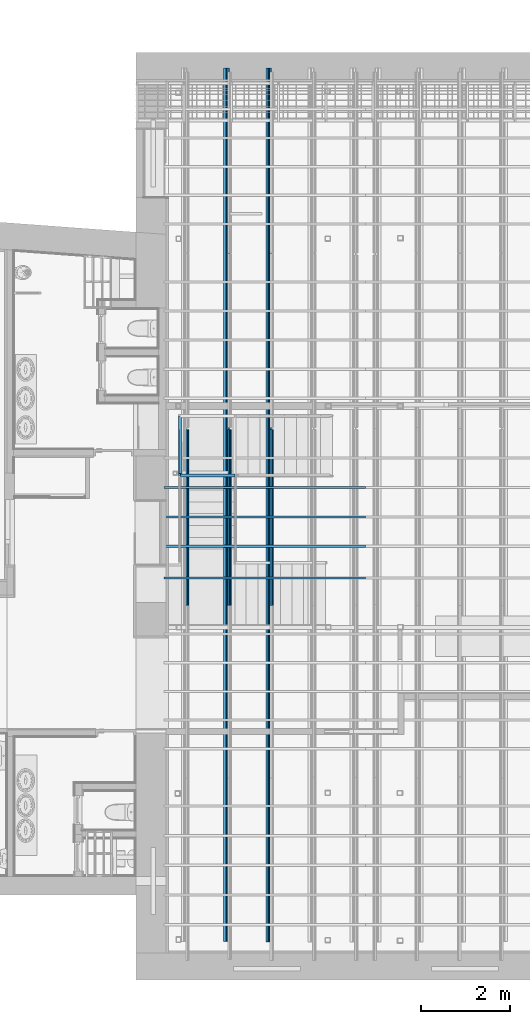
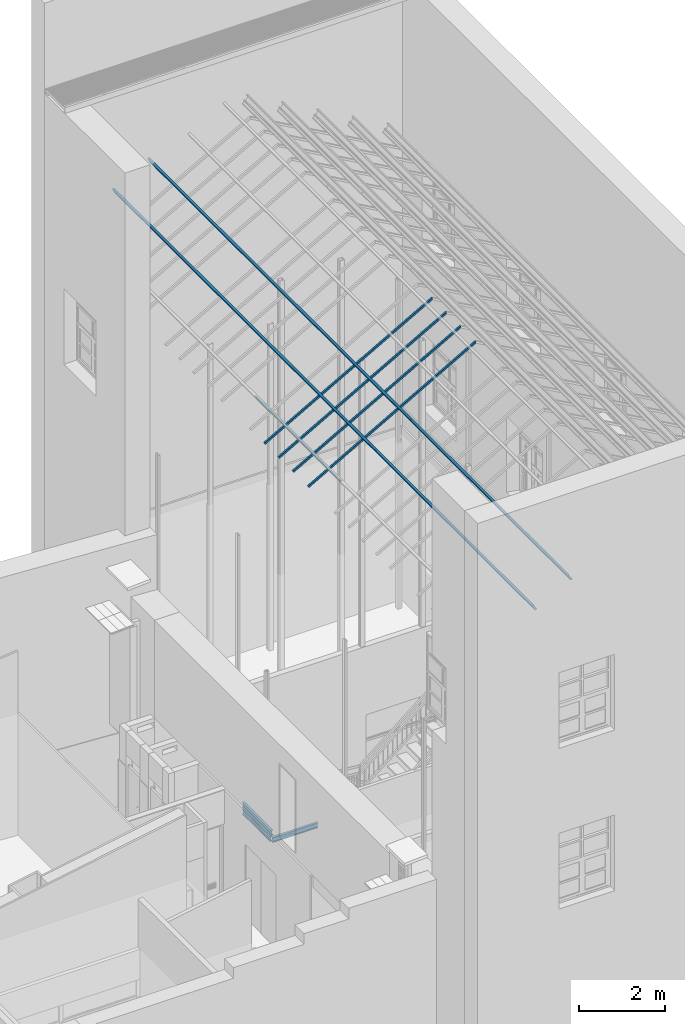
# One storey, part 18 of 75: 12 beams.
"""IFC2X3 building model written with IfcOpenShell, lengths in metres."""

from ifc_helpers import new_model, entity, si_unit, converted_unit, derived_unit, direction, frame, frame_2d, origin, origin_2d, place, context, subcontext, project, spatial, polyline, circle_curve, parameter, trimmed, segment, composite_curve, rectangle, i_section, outline, extrude, clip, halfspace, material, type_object, element, save


model = new_model("IFC2X3")

# Units and contexts
model_context = context("Model", 3, precision=1e-05, world=origin(), true_north=direction((6.12303176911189e-17, 1.0)))
body_context = subcontext(model_context, "Body", "Model", "MODEL_VIEW")
ifc_project = project(units=[si_unit("LENGTHUNIT", "METRE"), si_unit("AREAUNIT", "SQUARE_METRE"), si_unit("VOLUMEUNIT", "CUBIC_METRE"), converted_unit("PLANEANGLEUNIT", "DEGREE", entity("IfcRatioMeasure", 0.0174532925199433), si_unit("PLANEANGLEUNIT", "RADIAN"), dimensions=[0, 0, 0, 0, 0, 0, 0]), si_unit("MASSUNIT", "GRAM", prefix="KILO"), derived_unit("MASSDENSITYUNIT", [(si_unit("MASSUNIT", "GRAM", prefix="KILO"), 1), (si_unit("LENGTHUNIT", "METRE"), -3)]), derived_unit("MOMENTOFINERTIAUNIT", [(si_unit("LENGTHUNIT", "METRE"), 4)]), si_unit("TIMEUNIT", "SECOND"), si_unit("FREQUENCYUNIT", "HERTZ"), si_unit("THERMODYNAMICTEMPERATUREUNIT", "DEGREE_CELSIUS"), derived_unit("THERMALTRANSMITTANCEUNIT", [(si_unit("MASSUNIT", "GRAM", prefix="KILO"), 1), (si_unit("THERMODYNAMICTEMPERATUREUNIT", "KELVIN"), -1), (si_unit("TIMEUNIT", "SECOND"), -3)]), derived_unit("VOLUMETRICFLOWRATEUNIT", [(si_unit("LENGTHUNIT", "METRE"), 3), (si_unit("TIMEUNIT", "SECOND"), -1)]), si_unit("ELECTRICCURRENTUNIT", "AMPERE"), si_unit("ELECTRICVOLTAGEUNIT", "VOLT"), si_unit("POWERUNIT", "WATT"), si_unit("FORCEUNIT", "NEWTON", prefix="KILO"), si_unit("ILLUMINANCEUNIT", "LUX"), si_unit("LUMINOUSFLUXUNIT", "LUMEN"), si_unit("LUMINOUSINTENSITYUNIT", "CANDELA"), derived_unit("USERDEFINED", [(si_unit("MASSUNIT", "GRAM", prefix="KILO"), -1), (si_unit("LENGTHUNIT", "METRE"), -2), (si_unit("TIMEUNIT", "SECOND"), 3), (si_unit("LUMINOUSFLUXUNIT", "LUMEN"), 1)]), derived_unit("LINEARVELOCITYUNIT", [(si_unit("LENGTHUNIT", "METRE"), 1), (si_unit("TIMEUNIT", "SECOND"), -1)]), si_unit("PRESSUREUNIT", "PASCAL"), derived_unit("USERDEFINED", [(si_unit("LENGTHUNIT", "METRE"), -2), (si_unit("MASSUNIT", "GRAM", prefix="KILO"), 1), (si_unit("TIMEUNIT", "SECOND"), -2)]), derived_unit("LINEARFORCEUNIT", [(si_unit("MASSUNIT", "GRAM", prefix="KILO"), 1), (si_unit("LENGTHUNIT", "METRE"), 1), (si_unit("TIMEUNIT", "SECOND"), -2), (si_unit("LENGTHUNIT", "METRE"), -1)]), derived_unit("PLANARFORCEUNIT", [(si_unit("MASSUNIT", "GRAM", prefix="KILO"), 1), (si_unit("LENGTHUNIT", "METRE"), 1), (si_unit("TIMEUNIT", "SECOND"), -2), (si_unit("LENGTHUNIT", "METRE"), -2)])], contexts=[model_context])

# Site, building, storey
site_placement = place(None, origin())
site = spatial("IfcSite", under=ifc_project, at=site_placement, Name="Superficie", CompositionType="ELEMENT")
building_placement = place(site_placement, origin())
building = spatial("IfcBuilding", under=site, at=building_placement, Name="Telegestiones", CompositionType="ELEMENT")
storey_placement = place(building_placement, origin())
storey = spatial("IfcBuildingStorey", under=building, at=storey_placement, Name="Nivel 0_NPT", CompositionType="ELEMENT", Elevation=0.0)

# Beams
ifc_material_1 = material(Name="Metal - Acero - 345 MPa")
beam_type_1 = type_object("IfcBeamType", Name="IPN - Secciones en I con alas cónicas:IPN 140", PredefinedType="NOTDEFINED")
beam_1_placement = place(storey_placement, frame((6.35214331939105, 4.87760722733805, 1.60363247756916), z_axis=(-0.000711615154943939, 0.0, 0.999999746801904), x_axis=(0.999999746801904, 0.0, 0.000711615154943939)))
element("IfcBeam", 1, at=beam_1_placement, inside=storey, type_object=beam_type_1, material=ifc_material_1, Name="IPN - Secciones en I con alas cónicas:IPN 140", ObjectType="IPN - Secciones en I con alas cónicas:IPN 140", context=body_context, shape_type="SweptSolid", body=[
    extrude(outline(composite_curve([segment(polyline([(-0.0699999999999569, -0.0330000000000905), (-0.0666671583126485, -0.0330000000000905)]), True, "CONTINUOUS"), segment(trimmed(circle_curve(frame_2d((-0.0666671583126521, -0.0296000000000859), x_axis=(0.0, -1.0)), 0.00339999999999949), [parameter(0.0)], [parameter(82.0303896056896)], True, "PARAMETER"), True, "CONTINUOUS"), segment(polyline([(-0.0632999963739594, -0.0300714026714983), (-0.0601763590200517, -0.00775970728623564)]), True, "CONTINUOUS"), segment(trimmed(circle_curve(frame_2d((-0.0545314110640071, -0.00855000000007), x_axis=(-0.990341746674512, 0.138647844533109)), 0.0056999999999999), [parameter(277.969610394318)], [parameter(0.0)], True, "PARAMETER"), False, "CONTINUOUS"), segment(polyline([(-0.0545314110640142, -0.00285000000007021), (0.0545314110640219, -0.00284999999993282)]), True, "CONTINUOUS"), segment(trimmed(circle_curve(frame_2d((0.0545314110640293, -0.00854999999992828), x_axis=(0.0, 1.0)), 0.00569999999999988), [parameter(277.969610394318)], [parameter(0.0)], True, "PARAMETER"), False, "CONTINUOUS"), segment(polyline([(0.0601763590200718, -0.00775970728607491), (0.0632999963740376, -0.0300714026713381)]), True, "CONTINUOUS"), segment(trimmed(circle_curve(frame_2d((0.0666671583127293, -0.0295999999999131), x_axis=(-0.990341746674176, -0.138647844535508)), 0.00339999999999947), [parameter(0.0)], [parameter(82.0303896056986)], True, "PARAMETER"), True, "CONTINUOUS"), segment(polyline([(0.066667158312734, -0.0329999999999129), (0.0700000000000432, -0.0329999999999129)]), True, "CONTINUOUS"), segment(polyline([(0.0700000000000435, -0.0329999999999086), (0.0699999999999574, 0.0330000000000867)]), True, "CONTINUOUS"), segment(polyline([(0.0699999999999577, 0.033000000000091), (0.0666671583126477, 0.0330000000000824)]), True, "CONTINUOUS"), segment(trimmed(circle_curve(frame_2d((0.0666671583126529, 0.0296000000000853), x_axis=(0.0, 1.0)), 0.00340000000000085), [parameter(0.0)], [parameter(82.0303896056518)], True, "PARAMETER"), True, "CONTINUOUS"), segment(polyline([(0.0632999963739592, 0.0300714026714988), (0.0601763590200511, 0.00775970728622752)]), True, "CONTINUOUS"), segment(trimmed(circle_curve(frame_2d((0.0545314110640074, 0.00855000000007), x_axis=(0.990341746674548, -0.13864784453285)), 0.00569999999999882), [parameter(277.969610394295)], [parameter(0.0)], True, "PARAMETER"), False, "CONTINUOUS"), segment(polyline([(0.054531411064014, 0.0028500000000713), (-0.0545314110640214, 0.00284999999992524)]), True, "CONTINUOUS"), segment(trimmed(circle_curve(frame_2d((-0.0545314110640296, 0.00854999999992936), x_axis=(0.0, -1.0)), 0.00569999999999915), [parameter(277.969610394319)], [parameter(0.0)], True, "PARAMETER"), False, "CONTINUOUS"), segment(polyline([(-0.060176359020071, 0.00775970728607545), (-0.0632999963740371, 0.03007140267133)]), True, "CONTINUOUS"), segment(trimmed(circle_curve(frame_2d((-0.0666671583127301, 0.0295999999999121), x_axis=(0.990341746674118, 0.138647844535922)), 0.00340000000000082), [parameter(0.0)], [parameter(82.0303896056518)], True, "PARAMETER"), True, "CONTINUOUS"), segment(polyline([(-0.0666671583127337, 0.0329999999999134), (-0.0700000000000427, 0.0329999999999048)]), True, "CONTINUOUS"), segment(polyline([(-0.0700000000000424, 0.0329999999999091), (-0.0699999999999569, -0.0330000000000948)]), True, "CONTINUOUS")], self_intersect=False)), frame((-0.000872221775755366, 0.0, -0.0700000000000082), z_axis=(1.0, 0.0, 0.0), x_axis=(0.0, 0.0, -1.0)), (0.0, 0.0, 1.0), 1.21796729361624),
])
beam_2_placement = place(storey_placement, frame((6.34663145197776, 6.21161177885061, 1.603787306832), z_axis=(4.79545443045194e-07, -0.000116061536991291, 0.999999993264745), x_axis=(0.00413178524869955, -0.999991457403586, -0.000116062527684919)))
element("IfcBeam", 2, at=beam_2_placement, inside=storey, type_object=beam_type_1, material=ifc_material_1, Name="IPN - Secciones en I con alas cónicas:IPN 140", ObjectType="IPN - Secciones en I con alas cónicas:IPN 140", context=body_context, shape_type="SweptSolid", body=[
    extrude(outline(composite_curve([segment(polyline([(0.0666671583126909, -0.0329999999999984), (0.0700000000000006, -0.032999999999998)]), True, "CONTINUOUS"), segment(polyline([(0.0700000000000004, -0.032999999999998), (0.0699999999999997, 0.0330000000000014)]), True, "CONTINUOUS"), segment(polyline([(0.07, 0.0330000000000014), (0.0666671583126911, 0.033000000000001)]), True, "CONTINUOUS"), segment(trimmed(circle_curve(frame_2d((0.0666671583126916, 0.0295999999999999), x_axis=(0.0, 1.0)), 0.00340000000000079), [parameter(0.0)], [parameter(82.030389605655)], True, "PARAMETER"), True, "CONTINUOUS"), segment(polyline([(0.0632999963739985, 0.0300714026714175), (0.0601763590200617, 0.0077597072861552)]), True, "CONTINUOUS"), segment(trimmed(circle_curve(frame_2d((0.0545314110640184, 0.0085500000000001), x_axis=(0.990341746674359, -0.138647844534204)), 0.00569999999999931), [parameter(277.969610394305)], [parameter(0.0)], True, "PARAMETER"), False, "CONTINUOUS"), segment(polyline([(0.0545314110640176, 0.00285000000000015), (-0.0545314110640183, 0.0028499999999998)]), True, "CONTINUOUS"), segment(trimmed(circle_curve(frame_2d((-0.0545314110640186, 0.00854999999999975), x_axis=(0.0, -1.0)), 0.00569999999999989), [parameter(277.969610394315)], [parameter(0.0)], True, "PARAMETER"), False, "CONTINUOUS"), segment(polyline([(-0.0601763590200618, 0.00775970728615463), (-0.0632999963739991, 0.030071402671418)]), True, "CONTINUOUS"), segment(trimmed(circle_curve(frame_2d((-0.0666671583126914, 0.0296000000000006), x_axis=(0.990341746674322, 0.138647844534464)), 0.00339999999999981), [parameter(0.0)], [parameter(82.0303896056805)], True, "PARAMETER"), True, "CONTINUOUS"), segment(polyline([(-0.0666671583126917, 0.0330000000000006), (-0.0700000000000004, 0.0330000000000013)]), True, "CONTINUOUS"), segment(polyline([(-0.0700000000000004, 0.0330000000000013), (-0.0699999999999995, -0.0329999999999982)]), True, "CONTINUOUS"), segment(polyline([(-0.0699999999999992, -0.0329999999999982), (-0.0666671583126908, -0.0329999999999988)]), True, "CONTINUOUS"), segment(trimmed(circle_curve(frame_2d((-0.0666671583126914, -0.0295999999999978), x_axis=(0.0, -1.0)), 0.00340000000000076), [parameter(0.0)], [parameter(82.030389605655)], True, "PARAMETER"), True, "CONTINUOUS"), segment(polyline([(-0.063299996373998, -0.0300714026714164), (-0.0601763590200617, -0.00775970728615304)]), True, "CONTINUOUS"), segment(trimmed(circle_curve(frame_2d((-0.0545314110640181, -0.00854999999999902), x_axis=(-0.990341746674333, 0.13864784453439)), 0.00569999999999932), [parameter(277.969610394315)], [parameter(0.0)], True, "PARAMETER"), False, "CONTINUOUS"), segment(polyline([(-0.0545314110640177, -0.00284999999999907), (0.0545314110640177, -0.00284999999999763)]), True, "CONTINUOUS"), segment(trimmed(circle_curve(frame_2d((0.0545314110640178, -0.00854999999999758), x_axis=(0.0, 1.0)), 0.00569999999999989), [parameter(277.969610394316)], [parameter(0.0)], True, "PARAMETER"), False, "CONTINUOUS"), segment(polyline([(0.060176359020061, -0.00775970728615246), (0.0632999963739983, -0.0300714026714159)]), True, "CONTINUOUS"), segment(trimmed(circle_curve(frame_2d((0.0666671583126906, -0.0295999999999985), x_axis=(-0.990341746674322, -0.138647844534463)), 0.00339999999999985), [parameter(0.0)], [parameter(82.0303896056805)], True, "PARAMETER"), True, "CONTINUOUS")], self_intersect=False)), frame((7.97373620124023e-06, 0.0, -0.0700000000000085), z_axis=(1.0, 0.0, 0.0), x_axis=(0.0, 0.0, -1.0)), (0.0, 0.0, 1.0), 1.288),
])
beam_type_2 = type_object("IfcBeamType", Name="EST-PER-C-HGalv:C150X19.3", PredefinedType="NOTDEFINED")
beam_3_placement = place(storey_placement, frame((8.35154927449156, 13.523607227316, 14.5318951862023), z_axis=(0.0, 0.0, 1.0), x_axis=(0.0, -1.0, 0.0)))
element("IfcBeam", 3, at=beam_3_placement, inside=storey, type_object=beam_type_2, material=ifc_material_1, Name="EST-PER-C-HGalv:C150X19.3", ObjectType="EST-PER-C-HGalv:C150X19.3", context=body_context, shape_type="SweptSolid", body=[
    extrude(outline(polyline([(-0.0203333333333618, -0.0799999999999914), (0.0396666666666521, -0.0799999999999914), (0.039666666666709, 0.0800000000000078), (-0.0203333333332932, 0.0800000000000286), (-0.0203333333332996, 0.060000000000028), (-0.0183333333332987, 0.060000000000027), (-0.0183333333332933, 0.0780000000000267), (0.0376666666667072, 0.078000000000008), (0.0376666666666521, -0.0779999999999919), (-0.0183333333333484, -0.0779999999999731), (-0.0183333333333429, -0.0599999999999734), (-0.0203333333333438, -0.0599999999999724), (-0.0203333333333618, -0.0799999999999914)])), frame((-0.470000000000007, -0.0162169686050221, 0.082721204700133), z_axis=(1.0, 0.0, 0.0), x_axis=(0.0, -0.870679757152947, -0.491850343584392)), (0.0, 0.0, 1.0), 19.55),
])
beam_4_placement = place(storey_placement, frame((7.40767800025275, 13.523607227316, 13.9986986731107), z_axis=(0.0, 0.0, 1.0), x_axis=(0.0, -1.0, 0.0)))
element("IfcBeam", 4, at=beam_4_placement, inside=storey, type_object=beam_type_2, material=ifc_material_1, Name="EST-PER-C-HGalv:C150X19.3", ObjectType="EST-PER-C-HGalv:C150X19.3", context=body_context, shape_type="SweptSolid", body=[
    extrude(outline(polyline([(-0.0203333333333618, -0.0799999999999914), (0.0396666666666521, -0.0799999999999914), (0.039666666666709, 0.0800000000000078), (-0.0203333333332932, 0.0800000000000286), (-0.0203333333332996, 0.060000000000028), (-0.0183333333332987, 0.060000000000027), (-0.0183333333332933, 0.0780000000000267), (0.0376666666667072, 0.078000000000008), (0.0376666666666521, -0.0779999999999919), (-0.0183333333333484, -0.0779999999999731), (-0.0183333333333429, -0.0599999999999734), (-0.0203333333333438, -0.0599999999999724), (-0.0203333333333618, -0.0799999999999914)])), frame((-0.47000000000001, -0.0162169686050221, 0.082721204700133), z_axis=(1.0, 0.0, 0.0), x_axis=(0.0, -0.870679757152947, -0.491850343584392)), (0.0, 0.0, 1.0), 19.5369148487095),
])
beam_type_3 = type_object("IfcBeamType", Name="IPN - Secciones en I con alas cónicas:IPN 80", PredefinedType="NOTDEFINED")
beam_5_placement = place(storey_placement, frame((6.48635733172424, 1.98480722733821, 13.4782410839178), z_axis=(0.0, 0.0, 1.0), x_axis=(0.0, 1.0, 0.0)))
element("IfcBeam", 5, at=beam_5_placement, inside=storey, type_object=beam_type_3, material=ifc_material_1, Name="IPN - Secciones en I con alas cónicas:IPN 80", ObjectType="IPN - Secciones en I con alas cónicas:IPN 80", context=body_context, shape_type="SweptSolid", body=[
    extrude(outline(composite_curve([segment(polyline([(-0.0209999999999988, -0.0399999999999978), (0.0210000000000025, -0.0399999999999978)]), True, "CONTINUOUS"), segment(polyline([(0.0210000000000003, -0.0399999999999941), (0.0210000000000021, -0.0375704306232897)]), True, "CONTINUOUS"), segment(trimmed(circle_curve(frame_2d((0.0187000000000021, -0.0375704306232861), x_axis=(1.0, 0.0)), 0.00229999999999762), [parameter(0.0)], [parameter(82.0303896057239)], True, "PARAMETER"), True, "CONTINUOUS"), segment(polyline([(0.019018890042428, -0.035292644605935), (0.00530927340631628, -0.0333732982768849)]), True, "CONTINUOUS"), segment(trimmed(circle_curve(frame_2d((0.00584999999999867, -0.0295109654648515), x_axis=(-0.138647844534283, -0.990341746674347)), 0.00389999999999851), [parameter(277.969610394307)], [parameter(0.0)], True, "PARAMETER"), False, "CONTINUOUS"), segment(polyline([(0.00194999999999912, -0.0295109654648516), (0.00194999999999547, 0.0295109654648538)]), True, "CONTINUOUS"), segment(trimmed(circle_curve(frame_2d((0.00584999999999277, 0.02951096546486), x_axis=(-1.0, 0.0)), 0.00389999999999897), [parameter(277.969610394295)], [parameter(0.0)], True, "PARAMETER"), False, "CONTINUOUS"), segment(polyline([(0.00530927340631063, 0.0333732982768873), (0.0190188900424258, 0.0352926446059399)]), True, "CONTINUOUS"), segment(trimmed(circle_curve(frame_2d((0.0186999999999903, 0.0375704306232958), x_axis=(0.13864784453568, -0.990341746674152)), 0.00230000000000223), [parameter(0.0)], [parameter(82.0303896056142)], True, "PARAMETER"), True, "CONTINUOUS"), segment(polyline([(0.020999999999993, 0.0375704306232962), (0.0209999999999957, 0.0400000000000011)]), True, "CONTINUOUS"), segment(polyline([(0.0209999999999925, 0.0400000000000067), (-0.0210000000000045, 0.0399999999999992)]), True, "CONTINUOUS"), segment(polyline([(-0.0210000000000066, 0.040000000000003), (-0.021000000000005, 0.0375704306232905)]), True, "CONTINUOUS"), segment(trimmed(circle_curve(frame_2d((-0.0187000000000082, 0.0375704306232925), x_axis=(-1.0, 0.0)), 0.00229999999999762), [parameter(0.0)], [parameter(82.0303896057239)], True, "PARAMETER"), True, "CONTINUOUS"), segment(polyline([(-0.0190188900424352, 0.0352926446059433), (-0.00530927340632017, 0.0333732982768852)]), True, "CONTINUOUS"), segment(trimmed(circle_curve(frame_2d((-0.00585000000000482, 0.029510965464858), x_axis=(0.138647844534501, 0.990341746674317)), 0.00390000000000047), [parameter(277.969610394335)], [parameter(0.0)], True, "PARAMETER"), False, "CONTINUOUS"), segment(polyline([(-0.00195000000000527, 0.029510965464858), (-0.0019499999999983, -0.0295109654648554)]), True, "CONTINUOUS"), segment(trimmed(circle_curve(frame_2d((-0.00584999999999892, -0.0295109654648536), x_axis=(1.0, 0.0)), 0.00389999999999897), [parameter(277.969610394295)], [parameter(0.0)], True, "PARAMETER"), False, "CONTINUOUS"), segment(polyline([(-0.00530927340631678, -0.0333732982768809), (-0.0190188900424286, -0.0352926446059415)]), True, "CONTINUOUS"), segment(trimmed(circle_curve(frame_2d((-0.0186999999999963, -0.0375704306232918), x_axis=(-0.138647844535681, 0.990341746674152)), 0.00230000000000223), [parameter(0.0)], [parameter(82.0303896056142)], True, "PARAMETER"), True, "CONTINUOUS"), segment(polyline([(-0.0209999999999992, -0.0375704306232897), (-0.0209999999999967, -0.0400000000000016)]), True, "CONTINUOUS")], self_intersect=False)), frame((-0.0138500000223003, -0.0245925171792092, -0.0435339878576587), z_axis=(1.0, 0.0, 0.0), x_axis=(0.0, -0.870679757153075, 0.491850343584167)), (0.0, 0.0, 1.0), 3.93865000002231),
])
beam_6_placement = place(storey_placement, frame((8.37409988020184, 1.9848072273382, 14.5446341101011), z_axis=(0.0, 0.0, 1.0), x_axis=(0.0, 1.0, 0.0)))
element("IfcBeam", 6, at=beam_6_placement, inside=storey, type_object=beam_type_3, material=ifc_material_1, Name="IPN - Secciones en I con alas cónicas:IPN 80", ObjectType="IPN - Secciones en I con alas cónicas:IPN 80", context=body_context, shape_type="SweptSolid", body=[
    extrude(outline(composite_curve([segment(polyline([(-0.0209999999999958, -0.0399999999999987), (0.0210000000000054, -0.0399999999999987)]), True, "CONTINUOUS"), segment(polyline([(0.0210000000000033, -0.0399999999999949), (0.021000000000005, -0.0375704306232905)]), True, "CONTINUOUS"), segment(trimmed(circle_curve(frame_2d((0.018700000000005, -0.0375704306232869), x_axis=(1.0, 0.0)), 0.00229999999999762), [parameter(0.0)], [parameter(82.0303896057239)], True, "PARAMETER"), True, "CONTINUOUS"), segment(polyline([(0.0190188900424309, -0.0352926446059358), (0.00530927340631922, -0.0333732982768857)]), True, "CONTINUOUS"), segment(trimmed(circle_curve(frame_2d((0.00585000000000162, -0.0295109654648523), x_axis=(-0.138647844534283, -0.990341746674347)), 0.00389999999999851), [parameter(277.969610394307)], [parameter(0.0)], True, "PARAMETER"), False, "CONTINUOUS"), segment(polyline([(0.00195000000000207, -0.0295109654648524), (0.00194999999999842, 0.029510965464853)]), True, "CONTINUOUS"), segment(trimmed(circle_curve(frame_2d((0.00584999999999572, 0.0295109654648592), x_axis=(-1.0, 0.0)), 0.00389999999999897), [parameter(277.969610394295)], [parameter(0.0)], True, "PARAMETER"), False, "CONTINUOUS"), segment(polyline([(0.00530927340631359, 0.0333732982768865), (0.0190188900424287, 0.035292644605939)]), True, "CONTINUOUS"), segment(trimmed(circle_curve(frame_2d((0.0186999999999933, 0.037570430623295), x_axis=(0.138647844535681, -0.990341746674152)), 0.00230000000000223), [parameter(0.0)], [parameter(82.0303896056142)], True, "PARAMETER"), True, "CONTINUOUS"), segment(polyline([(0.020999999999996, 0.0375704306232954), (0.0209999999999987, 0.0400000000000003)]), True, "CONTINUOUS"), segment(polyline([(0.0209999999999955, 0.0400000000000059), (-0.0210000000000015, 0.0399999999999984)]), True, "CONTINUOUS"), segment(polyline([(-0.0210000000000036, 0.0400000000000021), (-0.0210000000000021, 0.0375704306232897)]), True, "CONTINUOUS"), segment(trimmed(circle_curve(frame_2d((-0.0187000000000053, 0.0375704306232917), x_axis=(-1.0, 0.0)), 0.00229999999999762), [parameter(0.0)], [parameter(82.0303896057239)], True, "PARAMETER"), True, "CONTINUOUS"), segment(polyline([(-0.0190188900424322, 0.0352926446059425), (-0.00530927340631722, 0.0333732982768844)]), True, "CONTINUOUS"), segment(trimmed(circle_curve(frame_2d((-0.00585000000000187, 0.0295109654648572), x_axis=(0.138647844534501, 0.990341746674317)), 0.00390000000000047), [parameter(277.969610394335)], [parameter(0.0)], True, "PARAMETER"), False, "CONTINUOUS"), segment(polyline([(-0.00195000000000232, 0.0295109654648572), (-0.00194999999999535, -0.0295109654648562)]), True, "CONTINUOUS"), segment(trimmed(circle_curve(frame_2d((-0.00584999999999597, -0.0295109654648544), x_axis=(1.0, 0.0)), 0.00389999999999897), [parameter(277.969610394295)], [parameter(0.0)], True, "PARAMETER"), False, "CONTINUOUS"), segment(polyline([(-0.00530927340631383, -0.0333732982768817), (-0.0190188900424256, -0.0352926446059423)]), True, "CONTINUOUS"), segment(trimmed(circle_curve(frame_2d((-0.0186999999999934, -0.0375704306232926), x_axis=(-0.13864784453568, 0.990341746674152)), 0.00230000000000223), [parameter(0.0)], [parameter(82.0303896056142)], True, "PARAMETER"), True, "CONTINUOUS"), segment(polyline([(-0.0209999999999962, -0.0375704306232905), (-0.0209999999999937, -0.0400000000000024)]), True, "CONTINUOUS")], self_intersect=False)), frame((-0.0138500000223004, -0.024592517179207, -0.0435339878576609), z_axis=(1.0, 0.0, 0.0), x_axis=(0.0, -0.870679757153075, 0.491850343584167)), (0.0, 0.0, 1.0), 3.93865000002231),
])
beam_7_placement = place(storey_placement, frame((7.43022860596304, 1.9848072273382, 14.0114375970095), z_axis=(0.0, 0.0, 1.0), x_axis=(0.0, 1.0, 0.0)))
element("IfcBeam", 7, at=beam_7_placement, inside=storey, type_object=beam_type_3, material=ifc_material_1, Name="IPN - Secciones en I con alas cónicas:IPN 80", ObjectType="IPN - Secciones en I con alas cónicas:IPN 80", context=body_context, shape_type="SweptSolid", body=[
    extrude(outline(composite_curve([segment(polyline([(-0.0209999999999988, -0.0399999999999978), (0.0210000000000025, -0.0399999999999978)]), True, "CONTINUOUS"), segment(polyline([(0.0210000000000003, -0.0399999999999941), (0.0210000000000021, -0.0375704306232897)]), True, "CONTINUOUS"), segment(trimmed(circle_curve(frame_2d((0.0187000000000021, -0.0375704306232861), x_axis=(1.0, 0.0)), 0.00229999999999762), [parameter(0.0)], [parameter(82.0303896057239)], True, "PARAMETER"), True, "CONTINUOUS"), segment(polyline([(0.019018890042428, -0.035292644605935), (0.00530927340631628, -0.0333732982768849)]), True, "CONTINUOUS"), segment(trimmed(circle_curve(frame_2d((0.00584999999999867, -0.0295109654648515), x_axis=(-0.138647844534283, -0.990341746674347)), 0.00389999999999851), [parameter(277.969610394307)], [parameter(0.0)], True, "PARAMETER"), False, "CONTINUOUS"), segment(polyline([(0.00194999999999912, -0.0295109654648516), (0.00194999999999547, 0.0295109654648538)]), True, "CONTINUOUS"), segment(trimmed(circle_curve(frame_2d((0.00584999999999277, 0.02951096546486), x_axis=(-1.0, 0.0)), 0.00389999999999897), [parameter(277.969610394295)], [parameter(0.0)], True, "PARAMETER"), False, "CONTINUOUS"), segment(polyline([(0.00530927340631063, 0.0333732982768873), (0.0190188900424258, 0.0352926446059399)]), True, "CONTINUOUS"), segment(trimmed(circle_curve(frame_2d((0.0186999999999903, 0.0375704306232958), x_axis=(0.13864784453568, -0.990341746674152)), 0.00230000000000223), [parameter(0.0)], [parameter(82.0303896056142)], True, "PARAMETER"), True, "CONTINUOUS"), segment(polyline([(0.020999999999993, 0.0375704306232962), (0.0209999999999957, 0.0400000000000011)]), True, "CONTINUOUS"), segment(polyline([(0.0209999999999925, 0.0400000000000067), (-0.0210000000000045, 0.0399999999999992)]), True, "CONTINUOUS"), segment(polyline([(-0.0210000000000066, 0.040000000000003), (-0.021000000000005, 0.0375704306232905)]), True, "CONTINUOUS"), segment(trimmed(circle_curve(frame_2d((-0.0187000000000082, 0.0375704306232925), x_axis=(-1.0, 0.0)), 0.00229999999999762), [parameter(0.0)], [parameter(82.0303896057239)], True, "PARAMETER"), True, "CONTINUOUS"), segment(polyline([(-0.0190188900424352, 0.0352926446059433), (-0.00530927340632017, 0.0333732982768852)]), True, "CONTINUOUS"), segment(trimmed(circle_curve(frame_2d((-0.00585000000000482, 0.029510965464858), x_axis=(0.138647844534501, 0.990341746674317)), 0.00390000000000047), [parameter(277.969610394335)], [parameter(0.0)], True, "PARAMETER"), False, "CONTINUOUS"), segment(polyline([(-0.00195000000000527, 0.029510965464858), (-0.0019499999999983, -0.0295109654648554)]), True, "CONTINUOUS"), segment(trimmed(circle_curve(frame_2d((-0.00584999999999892, -0.0295109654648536), x_axis=(1.0, 0.0)), 0.00389999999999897), [parameter(277.969610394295)], [parameter(0.0)], True, "PARAMETER"), False, "CONTINUOUS"), segment(polyline([(-0.00530927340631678, -0.0333732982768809), (-0.0190188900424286, -0.0352926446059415)]), True, "CONTINUOUS"), segment(trimmed(circle_curve(frame_2d((-0.0186999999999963, -0.0375704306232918), x_axis=(-0.138647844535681, 0.990341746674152)), 0.00230000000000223), [parameter(0.0)], [parameter(82.0303896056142)], True, "PARAMETER"), True, "CONTINUOUS"), segment(polyline([(-0.0209999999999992, -0.0375704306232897), (-0.0209999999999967, -0.0400000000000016)]), True, "CONTINUOUS")], self_intersect=False)), frame((-0.0138500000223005, -0.0245925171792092, -0.0435339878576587), z_axis=(1.0, 0.0, 0.0), x_axis=(0.0, -0.870679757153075, 0.491850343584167)), (0.0, 0.0, 1.0), 3.93865000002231),
])
ifc_material_2 = material(Name="Madera - Madera de construcción")
beam_type_4 = type_object("IfcBeamType", Name="Madera:50x50mm", PredefinedType="NOTDEFINED")
beam_8_placement = place(storey_placement, frame((6.01059937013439, 4.61427389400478, 13.2094835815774), z_axis=(-0.491850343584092, 0.0, 0.870679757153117), x_axis=(0.870679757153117, 0.0, 0.491850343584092)))
element("IfcBeam", 8, at=beam_8_placement, inside=storey, type_object=beam_type_4, material=ifc_material_2, Name="Madera:50x50mm", ObjectType="Madera:50x50mm", context=body_context, shape_type="SweptSolid", body=[
    clip(extrude(rectangle(XDim=0.0500000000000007, YDim=0.0500000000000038, at=frame_2d((2.65412691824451e-16, 0.0), x_axis=(1.0, 0.0))), frame((-0.0851437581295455, 0.0, -0.115), z_axis=(1.0, 0.0, 0.0), x_axis=(0.0, 0.0, -1.0)), (0.0, 0.0, 1.0), 5.18302027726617), halfspace(frame((5.06963132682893, 0.0, -0.140000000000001), z_axis=(0.870679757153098, 0.0, -0.491850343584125), x_axis=(0.0, -1.0, 0.0)), False)),
])
beam_9_placement = place(storey_placement, frame((6.01059937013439, 3.95510722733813, 13.2094835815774), z_axis=(-0.491850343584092, 0.0, 0.870679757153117), x_axis=(0.870679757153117, 0.0, 0.491850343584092)))
element("IfcBeam", 9, at=beam_9_placement, inside=storey, type_object=beam_type_4, material=ifc_material_2, Name="Madera:50x50mm", ObjectType="Madera:50x50mm", context=body_context, shape_type="SweptSolid", body=[
    clip(extrude(rectangle(XDim=0.0500000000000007, YDim=0.0500000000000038, at=frame_2d((9.41954847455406e-16, 0.0), x_axis=(1.0, 0.0))), frame((-0.0851437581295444, 0.0, -0.115), z_axis=(1.0, 0.0, 0.0), x_axis=(0.0, 0.0, -1.0)), (0.0, 0.0, 1.0), 5.18302027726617), halfspace(frame((5.06963132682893, 0.0, -0.140000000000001), z_axis=(0.870679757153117, 0.0, -0.491850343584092), x_axis=(0.0, -1.0, 0.0)), False)),
])
beam_10_placement = place(storey_placement, frame((6.01059937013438, 3.29594056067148, 13.2094835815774), z_axis=(-0.491850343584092, 0.0, 0.870679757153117), x_axis=(0.870679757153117, 0.0, 0.491850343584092)))
element("IfcBeam", 10, at=beam_10_placement, inside=storey, type_object=beam_type_4, material=ifc_material_2, Name="Madera:50x50mm", ObjectType="Madera:50x50mm", context=body_context, shape_type="SweptSolid", body=[
    clip(extrude(rectangle(XDim=0.0500000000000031, YDim=0.0500000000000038, at=frame_2d((9.43689570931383e-16, 0.0), x_axis=(1.0, 0.0))), frame((-0.0851437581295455, 0.0, -0.115000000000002), z_axis=(1.0, 0.0, 0.0), x_axis=(0.0, 0.0, -1.0)), (0.0, 0.0, 1.0), 5.18302027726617), halfspace(frame((5.06963132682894, 0.0, -0.140000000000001), z_axis=(0.870679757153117, 0.0, -0.491850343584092), x_axis=(0.0, -1.0, 0.0)), False)),
])
beam_11_placement = place(storey_placement, frame((6.01059937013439, 2.58677389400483, 13.2094835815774), z_axis=(-0.491850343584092, 0.0, 0.870679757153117), x_axis=(0.870679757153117, 0.0, 0.491850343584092)))
element("IfcBeam", 11, at=beam_11_placement, inside=storey, type_object=beam_type_4, material=ifc_material_2, Name="Madera:50x50mm", ObjectType="Madera:50x50mm", context=body_context, shape_type="SweptSolid", body=[
    clip(extrude(rectangle(XDim=0.0500000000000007, YDim=0.0500000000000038, at=frame_2d((9.41954847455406e-16, 0.0), x_axis=(1.0, 0.0))), frame((-0.0851437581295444, 0.0, -0.115000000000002), z_axis=(1.0, 0.0, 0.0), x_axis=(0.0, 0.0, -1.0)), (0.0, 0.0, 1.0), 5.18302027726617), halfspace(frame((5.06963132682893, 0.0, -0.140000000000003), z_axis=(0.870679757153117, 0.0, -0.491850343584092), x_axis=(0.0, -1.0, 0.0)), False)),
])
beam_type_5 = type_object("IfcBeamType", Name="IPN - Secciones en I con alas cónicas:IPN 140", PredefinedType="BEAM")
beam_12_placement = place(storey_placement, frame((6.347812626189, 6.211625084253, 1.730275), z_axis=(0.0, 1.0, 0.0), x_axis=(-1.0, 0.0, 0.0)))
element("IfcBeam", 12, at=beam_12_placement, inside=storey, type_object=beam_type_5, material=ifc_material_1, Name="IPN - Secciones en I con alas cónicas:IPN 140", ObjectType="IPN 140", context=model_context, shape_type="SweptSolid", body=[
    extrude(i_section(OverallWidth=0.066, OverallDepth=0.14, WebThickness=0.0057, FlangeThickness=0.0086, FilletRadius=0.0057, at=origin_2d()), origin(), (0.0, 0.0, -1.0), 1.334267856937),
])

save(model, "model.ifc")
